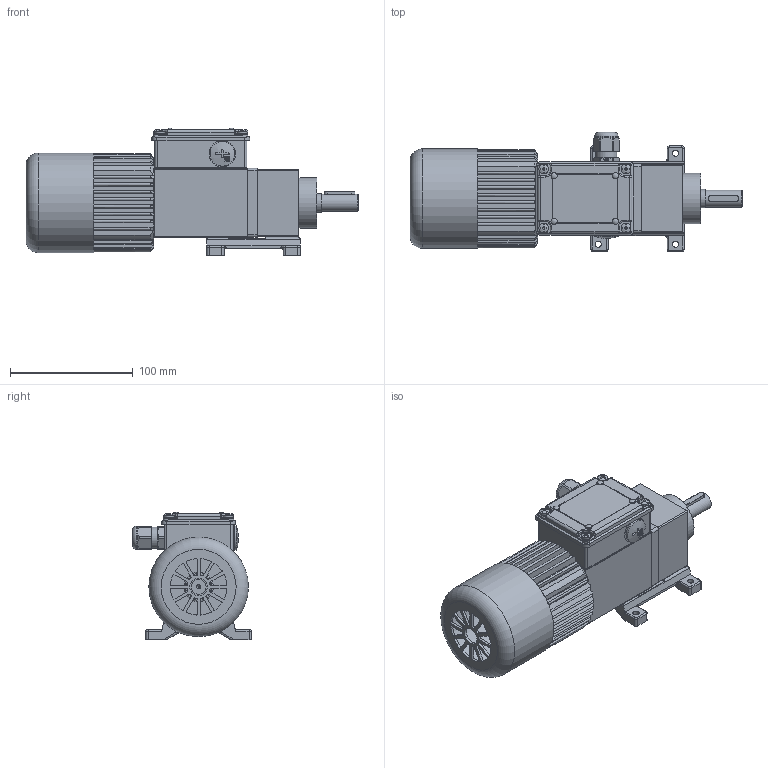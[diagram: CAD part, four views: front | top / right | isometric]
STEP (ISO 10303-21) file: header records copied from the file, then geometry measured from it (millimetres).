
FILE_DESCRIPTION(/* description */ ('Rondella di fissaggio dentellata'),/* implementation_level */ '2;1');
FILE_NAME(/* name */ 'C:\Users\giuseppe.caruso.MINIMOTOR\Desktop\ACE...B3.stp',/* time_stamp */ '2014-12-16T15:26:31+01:00',/* author */ ('giuseppe.caruso'),/* organization */ (''),/* preprocessor_version */ 'ST-DEVELOPER v15.6',/* originating_system */ 'Autodesk Inventor 2015',/* authorisation */ '');
FILE_SCHEMA (('CONFIG_CONTROL_DESIGN'));
Length unit declared in the file: millimetre
Products named in the file (30): RND005A; VCE445; VTS516; VCE412; RIV014I; VTC410S; VTC406; RST004; VTC306; BOC001; TPP001; SRD040; CPR042; SPN002; RAD041A; CPV050; GRN012; CPB005A; TRG064; CPM005A; TRG001; PIE030; GRN035; TPP009; SRD014; ALR063; SPS065; CRT002; CHI005; ACE 244PT 122,1 B3
Assembly tree (49 placements, depth 2):
  ACE 244PT 122,1 B3
    RND005A  x2
    VCE445  x4
    VTS516  x4
    VCE412  x3
    RIV014I  x4
    VTC410S  x4
    VTC406
    RST004
    VTC306  x4
    BOC001
    TPP001
    SRD040
    CPR042
    SPN002
    RAD041A
    CPV050
    GRN012
    CPB005A
    TRG064
    CPM005A
    TRG001
    PIE030
    GRN035
    TPP009
    SRD014
    ALR063
    SPS065  x3
    CRT002
    CHI005
Bounding box: 270.1 x 96.8 x 103.67 mm (x, y, z)
Volume: 420276.4 mm3; surface area: 245056.7 mm2
Topology: 54 solids, 54 shells, 3852 faces, 10525 edges, 6852 vertices
Faces by surface type: cylinder 1696, plane 1669, cone 265, torus 155, sphere 35, bspline 32
Full cylindrical faces by diameter (mm): 2.459 x1, 2.6 x4, 2.621 x3, 2.7 x8, 2.729 x4, 3 x11, 3.242 x18, 3.25 x4, 3.3 x1, 3.4 x4, 3.8 x4, 4 x15, 4.134 x7, 4.3 x1, 4.5 x20, 5 x12, 5.1 x4, 5.3 x4, 5.5 x6, 6 x6, 6.561 x1, 6.9 x2, 7 x13, 7.5 x6, 7.6 x1, 8 x5, 9 x12, 9.64 x4, 10 x1, 11 x1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
Entity records: 115762 total; most frequent: CARTESIAN_POINT 31239, ORIENTED_EDGE 18078, DIRECTION 16404, EDGE_CURVE 9039, VERTEX_POINT 6080, AXIS2_PLACEMENT_3D 5989, LINE 4426, VECTOR 4426
